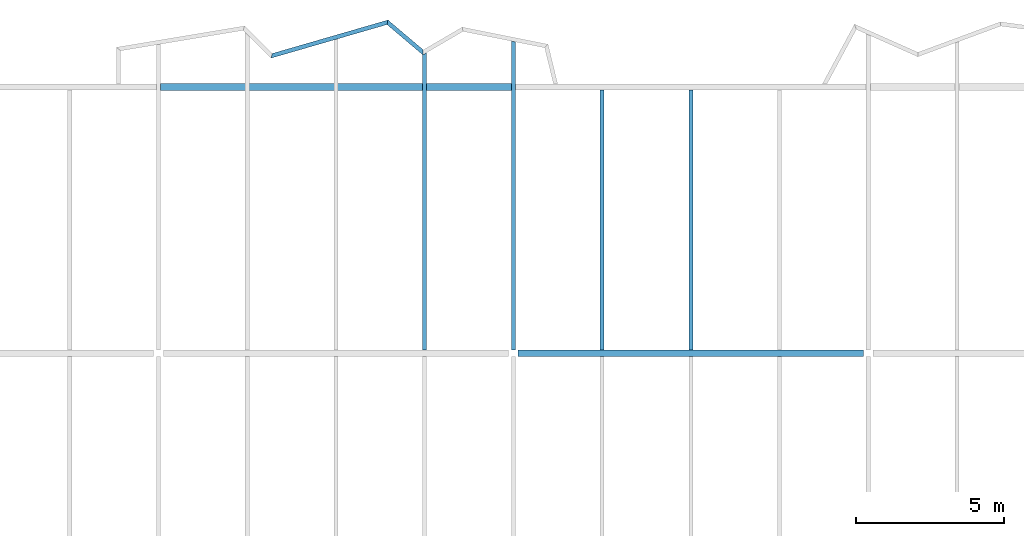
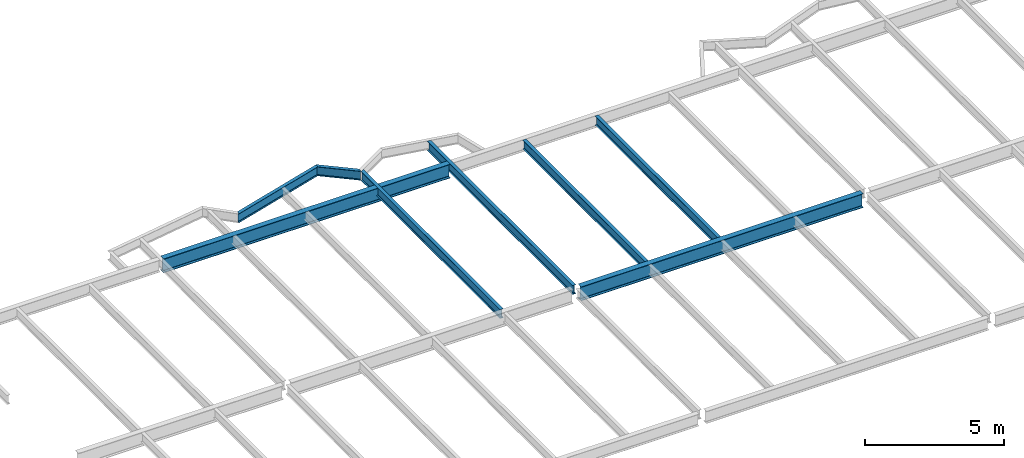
# One storey, part 4 of 21: 8 beams.
"""IFC2X3 building model written with IfcOpenShell, lengths in millimetres."""

from ifc_helpers import new_model, si_unit, origin, place, context, project, spatial, faceted_brep, material, element, save


model = new_model("IFC2X3")

# Units and contexts
context_of_model = context(None, 3, precision=1e-05, world=origin())
ifc_project = project(units=[si_unit("LENGTHUNIT", "METRE", prefix="MILLI")], contexts=[context_of_model])

# Building, storey
building = spatial("IfcBuilding", under=ifc_project, Name="Building", CompositionType="ELEMENT")
storey = spatial("IfcBuildingStorey", under=building, Name="FL3-FRM", CompositionType="ELEMENT")

# Beams
ifc_material_1 = material(Name="A992")
beam_1_placement = place(None, origin())
element("IfcBeam", 1, at=beam_1_placement, inside=storey, material=ifc_material_1, Name="Column453", context=context_of_model, shape_type="Brep", body=[
    faceted_brep([(-47930.0, 35885.5, 8261.0), (-47930.0, 36114.5, 8261.0), (-36070.0, 36114.5, 8261.0), (-36070.0, 35885.5, 8261.0), (-47930.0, 36114.5, 8280.6), (-36070.0, 36114.5, 8280.6), (-47930.0, 36018.6, 8280.6), (-36070.0, 36018.6, 8280.6), (-47930.0, 36015.4, 8281.03), (-36070.0, 36015.4, 8281.03), (-47930.0, 36012.3, 8282.3), (-36070.0, 36012.3, 8282.3), (-47930.0, 36009.7, 8284.32), (-36070.0, 36009.7, 8284.32), (-47930.0, 36007.7, 8286.95), (-36070.0, 36007.7, 8286.95), (-47930.0, 36006.4, 8290.01), (-36070.0, 36006.4, 8290.01), (-47930.0, 36005.9, 8293.3), (-36070.0, 36005.9, 8293.3), (-47930.0, 36005.9, 8840.7), (-36070.0, 36005.9, 8840.7), (-47930.0, 36006.4, 8843.99), (-36070.0, 36006.4, 8843.99), (-47930.0, 36007.7, 8847.05), (-36070.0, 36007.7, 8847.05), (-47930.0, 36009.7, 8849.68), (-36070.0, 36009.7, 8849.68), (-47930.0, 36012.3, 8851.7), (-36070.0, 36012.3, 8851.7), (-47930.0, 36015.4, 8852.97), (-36070.0, 36015.4, 8852.97), (-47930.0, 36018.6, 8853.4), (-36070.0, 36018.6, 8853.4), (-47930.0, 36114.5, 8853.4), (-36070.0, 36114.5, 8853.4), (-47930.0, 36114.5, 8873.0), (-36070.0, 36114.5, 8873.0), (-47930.0, 35885.5, 8873.0), (-36070.0, 35885.5, 8873.0), (-47930.0, 35885.5, 8853.4), (-36070.0, 35885.5, 8853.4), (-47930.0, 35981.4, 8853.4), (-36070.0, 35981.4, 8853.4), (-47930.0, 35984.6, 8852.97), (-36070.0, 35984.6, 8852.97), (-47930.0, 35987.7, 8851.7), (-36070.0, 35987.7, 8851.7), (-47930.0, 35990.3, 8849.68), (-36070.0, 35990.3, 8849.68), (-47930.0, 35992.3, 8847.05), (-36070.0, 35992.3, 8847.05), (-47930.0, 35993.6, 8843.99), (-36070.0, 35993.6, 8843.99), (-47930.0, 35994.1, 8840.7), (-36070.0, 35994.1, 8840.7), (-47930.0, 35994.1, 8293.3), (-36070.0, 35994.1, 8293.3), (-47930.0, 35993.6, 8290.01), (-36070.0, 35993.6, 8290.01), (-47930.0, 35992.3, 8286.95), (-36070.0, 35992.3, 8286.95), (-47930.0, 35990.3, 8284.32), (-36070.0, 35990.3, 8284.32), (-47930.0, 35987.7, 8282.3), (-36070.0, 35987.7, 8282.3), (-47930.0, 35984.6, 8281.03), (-36070.0, 35984.6, 8281.03), (-47930.0, 35981.4, 8280.6), (-36070.0, 35981.4, 8280.6), (-47930.0, 35885.5, 8280.6), (-36070.0, 35885.5, 8280.6)], [[[0, 1, 2, 3]], [[1, 4, 5, 2]], [[4, 6, 7, 5]], [[6, 8, 9, 7]], [[8, 10, 11, 9]], [[10, 12, 13, 11]], [[12, 14, 15, 13]], [[14, 16, 17, 15]], [[16, 18, 19, 17]], [[18, 20, 21, 19]], [[20, 22, 23, 21]], [[22, 24, 25, 23]], [[24, 26, 27, 25]], [[26, 28, 29, 27]], [[28, 30, 31, 29]], [[30, 32, 33, 31]], [[32, 34, 35, 33]], [[34, 36, 37, 35]], [[36, 38, 39, 37]], [[38, 40, 41, 39]], [[40, 42, 43, 41]], [[42, 44, 45, 43]], [[44, 46, 47, 45]], [[46, 48, 49, 47]], [[48, 50, 51, 49]], [[50, 52, 53, 51]], [[52, 54, 55, 53]], [[54, 56, 57, 55]], [[56, 58, 59, 57]], [[58, 60, 61, 59]], [[60, 62, 63, 61]], [[62, 64, 65, 63]], [[64, 66, 67, 65]], [[66, 68, 69, 67]], [[68, 70, 71, 69]], [[70, 0, 3, 71]], [[0, 70, 68, 66, 64, 62, 60, 58, 56, 54, 52, 50, 48, 46, 44, 42, 40, 38, 36, 34, 32, 30, 28, 26, 24, 22, 20, 18, 16, 14, 12, 10, 8, 6, 4, 1]], [[3, 2, 5, 7, 9, 11, 13, 15, 17, 19, 21, 23, 25, 27, 29, 31, 33, 35, 37, 39, 41, 43, 45, 47, 49, 51, 53, 55, 57, 59, 61, 63, 65, 67, 69, 71]]]),
])
ifc_material_2 = material(Name="A992")
beam_2_placement = place(None, origin())
element("IfcBeam", 2, at=beam_2_placement, inside=storey, material=ifc_material_2, Name="Column456", context=context_of_model, shape_type="Brep", body=[
    faceted_brep([(-35836.5, 26885.5, 8261.0), (-35836.5, 27114.5, 8261.0), (-24163.5, 27114.5, 8261.0), (-24163.5, 26885.5, 8261.0), (-35836.5, 27114.5, 8280.6), (-24163.5, 27114.5, 8280.6), (-35836.5, 27018.6, 8280.6), (-24163.5, 27018.6, 8280.6), (-35836.5, 27015.4, 8281.03), (-24163.5, 27015.4, 8281.03), (-35836.5, 27012.3, 8282.3), (-24163.5, 27012.3, 8282.3), (-35836.5, 27009.7, 8284.32), (-24163.5, 27009.7, 8284.32), (-35836.5, 27007.7, 8286.95), (-24163.5, 27007.7, 8286.95), (-35836.5, 27006.4, 8290.01), (-24163.5, 27006.4, 8290.01), (-35836.5, 27005.9, 8293.3), (-24163.5, 27005.9, 8293.3), (-35836.5, 27005.9, 8840.7), (-24163.5, 27005.9, 8840.7), (-35836.5, 27006.4, 8843.99), (-24163.5, 27006.4, 8843.99), (-35836.5, 27007.7, 8847.05), (-24163.5, 27007.7, 8847.05), (-35836.5, 27009.7, 8849.68), (-24163.5, 27009.7, 8849.68), (-35836.5, 27012.3, 8851.7), (-24163.5, 27012.3, 8851.7), (-35836.5, 27015.4, 8852.97), (-24163.5, 27015.4, 8852.97), (-35836.5, 27018.6, 8853.4), (-24163.5, 27018.6, 8853.4), (-35836.5, 27114.5, 8853.4), (-24163.5, 27114.5, 8853.4), (-35836.5, 27114.5, 8873.0), (-24163.5, 27114.5, 8873.0), (-35836.5, 26885.5, 8873.0), (-24163.5, 26885.5, 8873.0), (-35836.5, 26885.5, 8853.4), (-24163.5, 26885.5, 8853.4), (-35836.5, 26981.4, 8853.4), (-24163.5, 26981.4, 8853.4), (-35836.5, 26984.6, 8852.97), (-24163.5, 26984.6, 8852.97), (-35836.5, 26987.7, 8851.7), (-24163.5, 26987.7, 8851.7), (-35836.5, 26990.3, 8849.68), (-24163.5, 26990.3, 8849.68), (-35836.5, 26992.3, 8847.05), (-24163.5, 26992.3, 8847.05), (-35836.5, 26993.6, 8843.99), (-24163.5, 26993.6, 8843.99), (-35836.5, 26994.1, 8840.7), (-24163.5, 26994.1, 8840.7), (-35836.5, 26994.1, 8293.3), (-24163.5, 26994.1, 8293.3), (-35836.5, 26993.6, 8290.01), (-24163.5, 26993.6, 8290.01), (-35836.5, 26992.3, 8286.95), (-24163.5, 26992.3, 8286.95), (-35836.5, 26990.3, 8284.32), (-24163.5, 26990.3, 8284.32), (-35836.5, 26987.7, 8282.3), (-24163.5, 26987.7, 8282.3), (-35836.5, 26984.6, 8281.03), (-24163.5, 26984.6, 8281.03), (-35836.5, 26981.4, 8280.6), (-24163.5, 26981.4, 8280.6), (-35836.5, 26885.5, 8280.6), (-24163.5, 26885.5, 8280.6)], [[[0, 1, 2, 3]], [[1, 4, 5, 2]], [[4, 6, 7, 5]], [[6, 8, 9, 7]], [[8, 10, 11, 9]], [[10, 12, 13, 11]], [[12, 14, 15, 13]], [[14, 16, 17, 15]], [[16, 18, 19, 17]], [[18, 20, 21, 19]], [[20, 22, 23, 21]], [[22, 24, 25, 23]], [[24, 26, 27, 25]], [[26, 28, 29, 27]], [[28, 30, 31, 29]], [[30, 32, 33, 31]], [[32, 34, 35, 33]], [[34, 36, 37, 35]], [[36, 38, 39, 37]], [[38, 40, 41, 39]], [[40, 42, 43, 41]], [[42, 44, 45, 43]], [[44, 46, 47, 45]], [[46, 48, 49, 47]], [[48, 50, 51, 49]], [[50, 52, 53, 51]], [[52, 54, 55, 53]], [[54, 56, 57, 55]], [[56, 58, 59, 57]], [[58, 60, 61, 59]], [[60, 62, 63, 61]], [[62, 64, 65, 63]], [[64, 66, 67, 65]], [[66, 68, 69, 67]], [[68, 70, 71, 69]], [[70, 0, 3, 71]], [[0, 70, 68, 66, 64, 62, 60, 58, 56, 54, 52, 50, 48, 46, 44, 42, 40, 38, 36, 34, 32, 30, 28, 26, 24, 22, 20, 18, 16, 14, 12, 10, 8, 6, 4, 1]], [[3, 2, 5, 7, 9, 11, 13, 15, 17, 19, 21, 23, 25, 27, 29, 31, 33, 35, 37, 39, 41, 43, 45, 47, 49, 51, 53, 55, 57, 59, 61, 63, 65, 67, 69, 71]]]),
])
ifc_material_3 = material(Name="A992")
beam_3_placement = place(None, origin())
element("IfcBeam", 3, at=beam_3_placement, inside=storey, material=ifc_material_3, Name="B405", context=context_of_model, shape_type="Brep", body=[
    faceted_brep([(-33070.0, 35895.5, 8474.0), (-32930.0, 35895.5, 8474.0), (-32930.0, 27114.5, 8474.0), (-33070.0, 27114.5, 8474.0), (-32930.0, 35895.5, 8482.8), (-32930.0, 27114.5, 8482.8), (-32986.6, 35895.5, 8482.8), (-32986.6, 27114.5, 8482.8), (-32989.2, 35895.5, 8483.15), (-32989.2, 27114.5, 8483.15), (-32991.7, 35895.5, 8484.17), (-32991.7, 27114.5, 8484.17), (-32993.8, 35895.5, 8485.79), (-32993.8, 27114.5, 8485.79), (-32995.4, 35895.5, 8487.9), (-32995.4, 27114.5, 8487.9), (-32996.5, 35895.5, 8490.36), (-32996.5, 27114.5, 8490.36), (-32996.8, 35895.5, 8493.0), (-32996.8, 27114.5, 8493.0), (-32996.8, 35895.5, 8854.0), (-32996.8, 27114.5, 8854.0), (-32996.5, 35895.5, 8856.64), (-32996.5, 27114.5, 8856.64), (-32995.4, 35895.5, 8859.1), (-32995.4, 27114.5, 8859.1), (-32993.8, 35895.5, 8861.21), (-32993.8, 27114.5, 8861.21), (-32991.7, 35895.5, 8862.83), (-32991.7, 27114.5, 8862.83), (-32989.2, 35895.5, 8863.85), (-32989.2, 27114.5, 8863.85), (-32986.6, 35895.5, 8864.2), (-32986.6, 27114.5, 8864.2), (-32930.0, 35895.5, 8864.2), (-32930.0, 27114.5, 8864.2), (-32930.0, 35895.5, 8873.0), (-32930.0, 27114.5, 8873.0), (-33070.0, 35895.5, 8873.0), (-33070.0, 27114.5, 8873.0), (-33070.0, 35895.5, 8864.2), (-33070.0, 27114.5, 8864.2), (-33013.4, 35895.5, 8864.2), (-33013.4, 27114.5, 8864.2), (-33010.8, 35895.5, 8863.85), (-33010.8, 27114.5, 8863.85), (-33008.3, 35895.5, 8862.83), (-33008.3, 27114.5, 8862.83), (-33006.2, 35895.5, 8861.21), (-33006.2, 27114.5, 8861.21), (-33004.6, 35895.5, 8859.1), (-33004.6, 27114.5, 8859.1), (-33003.5, 35895.5, 8856.64), (-33003.5, 27114.5, 8856.64), (-33003.2, 35895.5, 8854.0), (-33003.2, 27114.5, 8854.0), (-33003.2, 35895.5, 8493.0), (-33003.2, 27114.5, 8493.0), (-33003.5, 35895.5, 8490.36), (-33003.5, 27114.5, 8490.36), (-33004.6, 35895.5, 8487.9), (-33004.6, 27114.5, 8487.9), (-33006.2, 35895.5, 8485.79), (-33006.2, 27114.5, 8485.79), (-33008.3, 35895.5, 8484.17), (-33008.3, 27114.5, 8484.17), (-33010.8, 35895.5, 8483.15), (-33010.8, 27114.5, 8483.15), (-33013.4, 35895.5, 8482.8), (-33013.4, 27114.5, 8482.8), (-33070.0, 35895.5, 8482.8), (-33070.0, 27114.5, 8482.8)], [[[0, 1, 2, 3]], [[1, 4, 5, 2]], [[4, 6, 7, 5]], [[6, 8, 9, 7]], [[8, 10, 11, 9]], [[10, 12, 13, 11]], [[12, 14, 15, 13]], [[14, 16, 17, 15]], [[16, 18, 19, 17]], [[18, 20, 21, 19]], [[20, 22, 23, 21]], [[22, 24, 25, 23]], [[24, 26, 27, 25]], [[26, 28, 29, 27]], [[28, 30, 31, 29]], [[30, 32, 33, 31]], [[32, 34, 35, 33]], [[34, 36, 37, 35]], [[36, 38, 39, 37]], [[38, 40, 41, 39]], [[40, 42, 43, 41]], [[42, 44, 45, 43]], [[44, 46, 47, 45]], [[46, 48, 49, 47]], [[48, 50, 51, 49]], [[50, 52, 53, 51]], [[52, 54, 55, 53]], [[54, 56, 57, 55]], [[56, 58, 59, 57]], [[58, 60, 61, 59]], [[60, 62, 63, 61]], [[62, 64, 65, 63]], [[64, 66, 67, 65]], [[66, 68, 69, 67]], [[68, 70, 71, 69]], [[70, 0, 3, 71]], [[0, 70, 68, 66, 64, 62, 60, 58, 56, 54, 52, 50, 48, 46, 44, 42, 40, 38, 36, 34, 32, 30, 28, 26, 24, 22, 20, 18, 16, 14, 12, 10, 8, 6, 4, 1]], [[3, 2, 5, 7, 9, 11, 13, 15, 17, 19, 21, 23, 25, 27, 29, 31, 33, 35, 37, 39, 41, 43, 45, 47, 49, 51, 53, 55, 57, 59, 61, 63, 65, 67, 69, 71]]]),
])
ifc_material_4 = material(Name="A992")
beam_4_placement = place(None, origin())
element("IfcBeam", 4, at=beam_4_placement, inside=storey, material=ifc_material_4, Name="B406", context=context_of_model, shape_type="Brep", body=[
    faceted_brep([(-30070.0, 35895.5, 8474.0), (-29930.0, 35895.5, 8474.0), (-29930.0, 27114.5, 8474.0), (-30070.0, 27114.5, 8474.0), (-29930.0, 35895.5, 8482.8), (-29930.0, 27114.5, 8482.8), (-29986.6, 35895.5, 8482.8), (-29986.6, 27114.5, 8482.8), (-29989.2, 35895.5, 8483.15), (-29989.2, 27114.5, 8483.15), (-29991.7, 35895.5, 8484.17), (-29991.7, 27114.5, 8484.17), (-29993.8, 35895.5, 8485.79), (-29993.8, 27114.5, 8485.79), (-29995.4, 35895.5, 8487.9), (-29995.4, 27114.5, 8487.9), (-29996.5, 35895.5, 8490.36), (-29996.5, 27114.5, 8490.36), (-29996.8, 35895.5, 8493.0), (-29996.8, 27114.5, 8493.0), (-29996.8, 35895.5, 8854.0), (-29996.8, 27114.5, 8854.0), (-29996.5, 35895.5, 8856.64), (-29996.5, 27114.5, 8856.64), (-29995.4, 35895.5, 8859.1), (-29995.4, 27114.5, 8859.1), (-29993.8, 35895.5, 8861.21), (-29993.8, 27114.5, 8861.21), (-29991.7, 35895.5, 8862.83), (-29991.7, 27114.5, 8862.83), (-29989.2, 35895.5, 8863.85), (-29989.2, 27114.5, 8863.85), (-29986.6, 35895.5, 8864.2), (-29986.6, 27114.5, 8864.2), (-29930.0, 35895.5, 8864.2), (-29930.0, 27114.5, 8864.2), (-29930.0, 35895.5, 8873.0), (-29930.0, 27114.5, 8873.0), (-30070.0, 35895.5, 8873.0), (-30070.0, 27114.5, 8873.0), (-30070.0, 35895.5, 8864.2), (-30070.0, 27114.5, 8864.2), (-30013.4, 35895.5, 8864.2), (-30013.4, 27114.5, 8864.2), (-30010.8, 35895.5, 8863.85), (-30010.8, 27114.5, 8863.85), (-30008.3, 35895.5, 8862.83), (-30008.3, 27114.5, 8862.83), (-30006.2, 35895.5, 8861.21), (-30006.2, 27114.5, 8861.21), (-30004.6, 35895.5, 8859.1), (-30004.6, 27114.5, 8859.1), (-30003.5, 35895.5, 8856.64), (-30003.5, 27114.5, 8856.64), (-30003.2, 35895.5, 8854.0), (-30003.2, 27114.5, 8854.0), (-30003.2, 35895.5, 8493.0), (-30003.2, 27114.5, 8493.0), (-30003.5, 35895.5, 8490.36), (-30003.5, 27114.5, 8490.36), (-30004.6, 35895.5, 8487.9), (-30004.6, 27114.5, 8487.9), (-30006.2, 35895.5, 8485.79), (-30006.2, 27114.5, 8485.79), (-30008.3, 35895.5, 8484.17), (-30008.3, 27114.5, 8484.17), (-30010.8, 35895.5, 8483.15), (-30010.8, 27114.5, 8483.15), (-30013.4, 35895.5, 8482.8), (-30013.4, 27114.5, 8482.8), (-30070.0, 35895.5, 8482.8), (-30070.0, 27114.5, 8482.8)], [[[0, 1, 2, 3]], [[1, 4, 5, 2]], [[4, 6, 7, 5]], [[6, 8, 9, 7]], [[8, 10, 11, 9]], [[10, 12, 13, 11]], [[12, 14, 15, 13]], [[14, 16, 17, 15]], [[16, 18, 19, 17]], [[18, 20, 21, 19]], [[20, 22, 23, 21]], [[22, 24, 25, 23]], [[24, 26, 27, 25]], [[26, 28, 29, 27]], [[28, 30, 31, 29]], [[30, 32, 33, 31]], [[32, 34, 35, 33]], [[34, 36, 37, 35]], [[36, 38, 39, 37]], [[38, 40, 41, 39]], [[40, 42, 43, 41]], [[42, 44, 45, 43]], [[44, 46, 47, 45]], [[46, 48, 49, 47]], [[48, 50, 51, 49]], [[50, 52, 53, 51]], [[52, 54, 55, 53]], [[54, 56, 57, 55]], [[56, 58, 59, 57]], [[58, 60, 61, 59]], [[60, 62, 63, 61]], [[62, 64, 65, 63]], [[64, 66, 67, 65]], [[66, 68, 69, 67]], [[68, 70, 71, 69]], [[70, 0, 3, 71]], [[0, 70, 68, 66, 64, 62, 60, 58, 56, 54, 52, 50, 48, 46, 44, 42, 40, 38, 36, 34, 32, 30, 28, 26, 24, 22, 20, 18, 16, 14, 12, 10, 8, 6, 4, 1]], [[3, 2, 5, 7, 9, 11, 13, 15, 17, 19, 21, 23, 25, 27, 29, 31, 33, 35, 37, 39, 41, 43, 45, 47, 49, 51, 53, 55, 57, 59, 61, 63, 65, 67, 69, 71]]]),
])
ifc_material_5 = material(Name="A992")
beam_5_placement = place(None, origin())
element("IfcBeam", 5, at=beam_5_placement, inside=storey, material=ifc_material_5, Name="B1080", context=context_of_model, shape_type="Brep", body=[
    faceted_brep([(-36070.0, 37552.7, 8474.0), (-35930.0, 37524.7, 8474.0), (-35930.0, 27114.5, 8474.0), (-36070.0, 27114.5, 8474.0), (-35930.0, 37524.7, 8482.8), (-35930.0, 27114.5, 8482.8), (-35986.6, 37536.0, 8482.8), (-35986.6, 27114.5, 8482.8), (-35988.1, 37536.3, 8482.9), (-35988.1, 27114.5, 8482.9), (-35989.5, 37536.6, 8483.21), (-35989.5, 27114.5, 8483.21), (-35990.8, 37536.9, 8483.72), (-35990.8, 27114.5, 8483.72), (-35992.1, 37537.1, 8484.42), (-35992.1, 27114.5, 8484.42), (-35993.3, 37537.4, 8485.29), (-35993.3, 27114.5, 8485.29), (-35994.3, 37537.6, 8486.32), (-35994.3, 27114.5, 8486.32), (-35995.2, 37537.7, 8487.48), (-35995.2, 27114.5, 8487.49), (-35995.9, 37537.9, 8488.76), (-35995.9, 27114.5, 8488.76), (-35996.4, 37538.0, 8490.13), (-35996.4, 27114.5, 8490.13), (-35996.7, 37538.1, 8491.55), (-35996.7, 27114.5, 8491.55), (-35996.8, 37538.1, 8493.0), (-35996.8, 27114.5, 8493.0), (-35996.8, 37538.1, 8854.0), (-35996.8, 27114.5, 8854.0), (-35996.7, 37538.1, 8855.45), (-35996.7, 27114.5, 8855.45), (-35996.4, 37538.0, 8856.87), (-35996.4, 27114.5, 8856.87), (-35995.9, 37537.9, 8858.24), (-35995.9, 27114.5, 8858.24), (-35995.2, 37537.7, 8859.52), (-35995.2, 27114.5, 8859.51), (-35994.3, 37537.6, 8860.68), (-35994.3, 27114.5, 8860.68), (-35993.3, 37537.4, 8861.71), (-35993.3, 27114.5, 8861.71), (-35992.1, 37537.1, 8862.58), (-35992.1, 27114.5, 8862.58), (-35990.8, 37536.9, 8863.28), (-35990.8, 27114.5, 8863.28), (-35989.5, 37536.6, 8863.79), (-35989.5, 27114.5, 8863.79), (-35988.1, 37536.3, 8864.1), (-35988.1, 27114.5, 8864.1), (-35986.6, 37536.0, 8864.2), (-35986.6, 27114.5, 8864.2), (-35930.0, 37524.7, 8864.2), (-35930.0, 27114.5, 8864.2), (-35930.0, 37524.7, 8873.0), (-35930.0, 27114.5, 8873.0), (-36070.0, 37552.7, 8873.0), (-36070.0, 27114.5, 8873.0), (-36070.0, 37552.7, 8864.2), (-36070.0, 27114.5, 8864.2), (-36013.4, 37541.4, 8864.2), (-36013.4, 27114.5, 8864.2), (-36011.9, 37541.1, 8864.1), (-36011.9, 27114.5, 8864.1), (-36010.5, 37540.8, 8863.79), (-36010.5, 27114.5, 8863.79), (-36009.2, 37540.5, 8863.28), (-36009.2, 27114.5, 8863.28), (-36007.9, 37540.3, 8862.58), (-36007.9, 27114.5, 8862.58), (-36006.7, 37540.1, 8861.71), (-36006.7, 27114.5, 8861.71), (-36005.7, 37539.9, 8860.68), (-36005.7, 27114.5, 8860.68), (-36004.8, 37539.7, 8859.52), (-36004.8, 27114.5, 8859.51), (-36004.1, 37539.5, 8858.24), (-36004.1, 27114.5, 8858.24), (-36003.6, 37539.4, 8856.87), (-36003.6, 27114.5, 8856.87), (-36003.3, 37539.4, 8855.45), (-36003.3, 27114.5, 8855.45), (-36003.2, 37539.4, 8854.0), (-36003.2, 27114.5, 8854.0), (-36003.2, 37539.4, 8493.0), (-36003.2, 27114.5, 8493.0), (-36003.3, 37539.4, 8491.55), (-36003.3, 27114.5, 8491.55), (-36003.6, 37539.4, 8490.13), (-36003.6, 27114.5, 8490.13), (-36004.1, 37539.5, 8488.76), (-36004.1, 27114.5, 8488.76), (-36004.8, 37539.7, 8487.48), (-36004.8, 27114.5, 8487.49), (-36005.7, 37539.9, 8486.32), (-36005.7, 27114.5, 8486.32), (-36006.7, 37540.1, 8485.29), (-36006.7, 27114.5, 8485.29), (-36007.9, 37540.3, 8484.42), (-36007.9, 27114.5, 8484.42), (-36009.2, 37540.5, 8483.72), (-36009.2, 27114.5, 8483.72), (-36010.5, 37540.8, 8483.21), (-36010.5, 27114.5, 8483.21), (-36011.9, 37541.1, 8482.9), (-36011.9, 27114.5, 8482.9), (-36013.4, 37541.4, 8482.8), (-36013.4, 27114.5, 8482.8), (-36070.0, 37552.7, 8482.8), (-36070.0, 27114.5, 8482.8)], [[[0, 1, 2, 3]], [[1, 4, 5, 2]], [[4, 6, 7, 5]], [[6, 8, 9, 7]], [[8, 10, 11, 9]], [[10, 12, 13, 11]], [[12, 14, 15, 13]], [[14, 16, 17, 15]], [[16, 18, 19, 17]], [[18, 20, 21, 19]], [[20, 22, 23, 21]], [[22, 24, 25, 23]], [[24, 26, 27, 25]], [[26, 28, 29, 27]], [[28, 30, 31, 29]], [[30, 32, 33, 31]], [[32, 34, 35, 33]], [[34, 36, 37, 35]], [[36, 38, 39, 37]], [[38, 40, 41, 39]], [[40, 42, 43, 41]], [[42, 44, 45, 43]], [[44, 46, 47, 45]], [[46, 48, 49, 47]], [[48, 50, 51, 49]], [[50, 52, 53, 51]], [[52, 54, 55, 53]], [[54, 56, 57, 55]], [[56, 58, 59, 57]], [[58, 60, 61, 59]], [[60, 62, 63, 61]], [[62, 64, 65, 63]], [[64, 66, 67, 65]], [[66, 68, 69, 67]], [[68, 70, 71, 69]], [[70, 72, 73, 71]], [[72, 74, 75, 73]], [[74, 76, 77, 75]], [[76, 78, 79, 77]], [[78, 80, 81, 79]], [[80, 82, 83, 81]], [[82, 84, 85, 83]], [[84, 86, 87, 85]], [[86, 88, 89, 87]], [[88, 90, 91, 89]], [[90, 92, 93, 91]], [[92, 94, 95, 93]], [[94, 96, 97, 95]], [[96, 98, 99, 97]], [[98, 100, 101, 99]], [[100, 102, 103, 101]], [[102, 104, 105, 103]], [[104, 106, 107, 105]], [[106, 108, 109, 107]], [[108, 110, 111, 109]], [[110, 0, 3, 111]], [[0, 110, 108, 106, 104, 102, 100, 98, 96, 94, 92, 90, 88, 86, 84, 82, 80, 78, 76, 74, 72, 70, 68, 66, 64, 62, 60, 58, 56, 54, 52, 50, 48, 46, 44, 42, 40, 38, 36, 34, 32, 30, 28, 26, 24, 22, 20, 18, 16, 14, 12, 10, 8, 6, 4, 1]], [[3, 2, 5, 7, 9, 11, 13, 15, 17, 19, 21, 23, 25, 27, 29, 31, 33, 35, 37, 39, 41, 43, 45, 47, 49, 51, 53, 55, 57, 59, 61, 63, 65, 67, 69, 71, 73, 75, 77, 79, 81, 83, 85, 87, 89, 91, 93, 95, 97, 99, 101, 103, 105, 107, 109, 111]]]),
])
ifc_material_6 = material(Name="A992")
beam_6_placement = place(None, origin())
element("IfcBeam", 6, at=beam_6_placement, inside=storey, material=ifc_material_6, Name="B1082", context=context_of_model, shape_type="Brep", body=[
    faceted_brep([(-40274.2, 38112.0, 8474.0), (-40241.1, 38267.3, 8474.0), (-39047.8, 37257.6, 8474.0), (-39062.7, 37086.8, 8474.0), (-40241.1, 38267.3, 8482.8), (-39047.8, 37257.6, 8482.8), (-40254.5, 38204.5, 8482.8), (-39053.9, 37188.6, 8482.8), (-40254.9, 38202.7, 8482.92), (-39054.0, 37186.6, 8482.91), (-40255.2, 38201.0, 8483.29), (-39054.2, 37184.7, 8483.29), (-40255.6, 38199.4, 8483.91), (-39054.3, 37183.0, 8483.91), (-40255.9, 38197.9, 8484.73), (-39054.5, 37181.3, 8484.72), (-40256.2, 38196.5, 8485.79), (-39054.6, 37179.8, 8485.79), (-40256.4, 38195.4, 8486.99), (-39054.7, 37178.5, 8486.98), (-40256.6, 38194.4, 8488.36), (-39054.8, 37177.5, 8488.35), (-40256.8, 38193.7, 8489.84), (-39054.9, 37176.8, 8489.84), (-40256.9, 38193.3, 8491.4), (-39054.9, 37176.3, 8491.39), (-40256.9, 38193.2, 8493.0), (-39054.9, 37176.1, 8493.0), (-40256.9, 38193.2, 8854.0), (-39054.9, 37176.1, 8854.0), (-40256.9, 38193.3, 8855.6), (-39054.9, 37176.3, 8855.61), (-40256.8, 38193.7, 8857.16), (-39054.9, 37176.8, 8857.16), (-40256.6, 38194.4, 8858.64), (-39054.8, 37177.5, 8858.65), (-40256.4, 38195.4, 8860.01), (-39054.7, 37178.5, 8860.02), (-40256.2, 38196.5, 8861.21), (-39054.6, 37179.8, 8861.21), (-40255.9, 38197.9, 8862.27), (-39054.5, 37181.3, 8862.28), (-40255.6, 38199.4, 8863.09), (-39054.3, 37183.0, 8863.09), (-40255.2, 38201.0, 8863.71), (-39054.2, 37184.7, 8863.71), (-40254.9, 38202.7, 8864.08), (-39054.0, 37186.6, 8864.09), (-40254.5, 38204.5, 8864.2), (-39053.9, 37188.6, 8864.2), (-40241.1, 38267.3, 8864.2), (-39047.8, 37257.6, 8864.2), (-40241.1, 38267.3, 8873.0), (-39047.8, 37257.6, 8873.0), (-40274.2, 38112.0, 8873.0), (-39062.7, 37086.8, 8873.0), (-40274.2, 38112.0, 8864.2), (-39062.7, 37086.8, 8864.2), (-40260.8, 38174.8, 8864.2), (-39056.7, 37155.9, 8864.2), (-40260.5, 38176.5, 8864.08), (-39056.5, 37157.8, 8864.09), (-40260.1, 38178.3, 8863.71), (-39056.4, 37159.7, 8863.71), (-40259.7, 38179.9, 8863.09), (-39056.2, 37161.5, 8863.09), (-40259.4, 38181.4, 8862.27), (-39056.1, 37163.2, 8862.28), (-40259.1, 38182.8, 8861.21), (-39055.9, 37164.7, 8861.21), (-40258.9, 38183.9, 8860.01), (-39055.8, 37165.9, 8860.02), (-40258.7, 38184.8, 8858.64), (-39055.7, 37167.0, 8858.65), (-40258.5, 38185.5, 8857.16), (-39055.7, 37167.7, 8857.16), (-40258.5, 38185.9, 8855.6), (-39055.6, 37168.2, 8855.61), (-40258.4, 38186.1, 8854.0), (-39055.6, 37168.3, 8854.0), (-40258.4, 38186.1, 8493.0), (-39055.6, 37168.3, 8493.0), (-40258.5, 38185.9, 8491.4), (-39055.6, 37168.2, 8491.39), (-40258.5, 38185.5, 8489.84), (-39055.7, 37167.7, 8489.84), (-40258.7, 38184.8, 8488.36), (-39055.7, 37167.0, 8488.35), (-40258.9, 38183.9, 8486.99), (-39055.8, 37165.9, 8486.98), (-40259.1, 38182.8, 8485.79), (-39055.9, 37164.7, 8485.79), (-40259.4, 38181.4, 8484.73), (-39056.1, 37163.2, 8484.72), (-40259.7, 38179.9, 8483.91), (-39056.2, 37161.5, 8483.91), (-40260.1, 38178.3, 8483.29), (-39056.4, 37159.7, 8483.29), (-40260.5, 38176.5, 8482.92), (-39056.5, 37157.8, 8482.91), (-40260.8, 38174.8, 8482.8), (-39056.7, 37155.9, 8482.8), (-40274.2, 38112.0, 8482.8), (-39062.7, 37086.8, 8482.8)], [[[0, 1, 2, 3]], [[1, 4, 5, 2]], [[4, 6, 7, 5]], [[6, 8, 9, 7]], [[8, 10, 11, 9]], [[10, 12, 13, 11]], [[12, 14, 15, 13]], [[14, 16, 17, 15]], [[16, 18, 19, 17]], [[18, 20, 21, 19]], [[20, 22, 23, 21]], [[22, 24, 25, 23]], [[24, 26, 27, 25]], [[26, 28, 29, 27]], [[28, 30, 31, 29]], [[30, 32, 33, 31]], [[32, 34, 35, 33]], [[34, 36, 37, 35]], [[36, 38, 39, 37]], [[38, 40, 41, 39]], [[40, 42, 43, 41]], [[42, 44, 45, 43]], [[44, 46, 47, 45]], [[46, 48, 49, 47]], [[48, 50, 51, 49]], [[50, 52, 53, 51]], [[52, 54, 55, 53]], [[54, 56, 57, 55]], [[56, 58, 59, 57]], [[58, 60, 61, 59]], [[60, 62, 63, 61]], [[62, 64, 65, 63]], [[64, 66, 67, 65]], [[66, 68, 69, 67]], [[68, 70, 71, 69]], [[70, 72, 73, 71]], [[72, 74, 75, 73]], [[74, 76, 77, 75]], [[76, 78, 79, 77]], [[78, 80, 81, 79]], [[80, 82, 83, 81]], [[82, 84, 85, 83]], [[84, 86, 87, 85]], [[86, 88, 89, 87]], [[88, 90, 91, 89]], [[90, 92, 93, 91]], [[92, 94, 95, 93]], [[94, 96, 97, 95]], [[96, 98, 99, 97]], [[98, 100, 101, 99]], [[100, 102, 103, 101]], [[102, 0, 3, 103]], [[0, 102, 100, 98, 96, 94, 92, 90, 88, 86, 84, 82, 80, 78, 76, 74, 72, 70, 68, 66, 64, 62, 60, 58, 56, 54, 52, 50, 48, 46, 44, 42, 40, 38, 36, 34, 32, 30, 28, 26, 24, 22, 20, 18, 16, 14, 12, 10, 8, 6, 4, 1]], [[3, 2, 5, 7, 9, 11, 13, 15, 17, 19, 21, 23, 25, 27, 29, 31, 33, 35, 37, 39, 41, 43, 45, 47, 49, 51, 53, 55, 57, 59, 61, 63, 65, 67, 69, 71, 73, 75, 77, 79, 81, 83, 85, 87, 89, 91, 93, 95, 97, 99, 101, 103]]]),
])
ifc_material_7 = material(Name="A992")
beam_7_placement = place(None, origin())
element("IfcBeam", 7, at=beam_7_placement, inside=storey, material=ifc_material_7, Name="B1083", context=context_of_model, shape_type="Brep", body=[
    faceted_brep([(-39070.0, 37082.6, 8474.0), (-38930.0, 37164.3, 8474.0), (-38930.0, 27114.5, 8474.0), (-39070.0, 27114.5, 8474.0), (-38930.0, 37164.3, 8482.8), (-38930.0, 27114.5, 8482.8), (-38986.6, 37131.3, 8482.8), (-38986.6, 27114.5, 8482.8), (-38988.0, 37130.4, 8482.89), (-38988.1, 27114.5, 8482.9), (-38989.5, 37129.6, 8483.2), (-38989.5, 27114.5, 8483.21), (-38990.8, 37128.8, 8483.72), (-38990.8, 27114.5, 8483.72), (-38992.1, 37128.1, 8484.41), (-38992.1, 27114.5, 8484.42), (-38993.3, 37127.4, 8485.28), (-38993.3, 27114.5, 8485.29), (-38994.3, 37126.8, 8486.31), (-38994.3, 27114.5, 8486.32), (-38995.2, 37126.3, 8487.47), (-38995.2, 27114.5, 8487.49), (-38995.9, 37125.8, 8488.75), (-38995.9, 27114.5, 8488.76), (-38996.4, 37125.6, 8490.12), (-38996.4, 27114.5, 8490.13), (-38996.7, 37125.4, 8491.54), (-38996.7, 27114.5, 8491.55), (-38996.8, 37125.3, 8493.0), (-38996.8, 27114.5, 8493.0), (-38996.8, 37125.3, 8854.0), (-38996.8, 27114.5, 8854.0), (-38996.7, 37125.4, 8855.46), (-38996.7, 27114.5, 8855.45), (-38996.4, 37125.6, 8856.88), (-38996.4, 27114.5, 8856.87), (-38995.9, 37125.8, 8858.25), (-38995.9, 27114.5, 8858.24), (-38995.2, 37126.3, 8859.53), (-38995.2, 27114.5, 8859.51), (-38994.3, 37126.8, 8860.69), (-38994.3, 27114.5, 8860.68), (-38993.3, 37127.4, 8861.72), (-38993.3, 27114.5, 8861.71), (-38992.1, 37128.1, 8862.59), (-38992.1, 27114.5, 8862.58), (-38990.8, 37128.8, 8863.28), (-38990.8, 27114.5, 8863.28), (-38989.5, 37129.6, 8863.8), (-38989.5, 27114.5, 8863.79), (-38988.0, 37130.4, 8864.11), (-38988.1, 27114.5, 8864.1), (-38986.6, 37131.3, 8864.2), (-38986.6, 27114.5, 8864.2), (-38930.0, 37164.3, 8864.2), (-38930.0, 27114.5, 8864.2), (-38930.0, 37164.3, 8873.0), (-38930.0, 27114.5, 8873.0), (-39070.0, 37082.6, 8873.0), (-39070.0, 27114.5, 8873.0), (-39070.0, 37082.6, 8864.2), (-39070.0, 27114.5, 8864.2), (-39013.4, 37115.6, 8864.2), (-39013.4, 27114.5, 8864.2), (-39012.0, 37116.5, 8864.11), (-39011.9, 27114.5, 8864.1), (-39010.5, 37117.3, 8863.8), (-39010.5, 27114.5, 8863.79), (-39009.2, 37118.1, 8863.28), (-39009.2, 27114.5, 8863.28), (-39007.9, 37118.8, 8862.59), (-39007.9, 27114.5, 8862.58), (-39006.7, 37119.5, 8861.72), (-39006.7, 27114.5, 8861.71), (-39005.7, 37120.1, 8860.69), (-39005.7, 27114.5, 8860.68), (-39004.8, 37120.6, 8859.53), (-39004.8, 27114.5, 8859.51), (-39004.1, 37121.0, 8858.25), (-39004.1, 27114.5, 8858.24), (-39003.6, 37121.3, 8856.88), (-39003.6, 27114.5, 8856.87), (-39003.3, 37121.5, 8855.46), (-39003.3, 27114.5, 8855.45), (-39003.2, 37121.6, 8854.0), (-39003.2, 27114.5, 8854.0), (-39003.2, 37121.6, 8493.0), (-39003.2, 27114.5, 8493.0), (-39003.3, 37121.5, 8491.54), (-39003.3, 27114.5, 8491.55), (-39003.6, 37121.3, 8490.12), (-39003.6, 27114.5, 8490.13), (-39004.1, 37121.0, 8488.75), (-39004.1, 27114.5, 8488.76), (-39004.8, 37120.6, 8487.47), (-39004.8, 27114.5, 8487.49), (-39005.7, 37120.1, 8486.31), (-39005.7, 27114.5, 8486.32), (-39006.7, 37119.5, 8485.28), (-39006.7, 27114.5, 8485.29), (-39007.9, 37118.8, 8484.41), (-39007.9, 27114.5, 8484.42), (-39009.2, 37118.1, 8483.72), (-39009.2, 27114.5, 8483.72), (-39010.5, 37117.3, 8483.2), (-39010.5, 27114.5, 8483.21), (-39012.0, 37116.5, 8482.89), (-39011.9, 27114.5, 8482.9), (-39013.4, 37115.6, 8482.8), (-39013.4, 27114.5, 8482.8), (-39070.0, 37082.6, 8482.8), (-39070.0, 27114.5, 8482.8)], [[[0, 1, 2, 3]], [[1, 4, 5, 2]], [[4, 6, 7, 5]], [[6, 8, 9, 7]], [[8, 10, 11, 9]], [[10, 12, 13, 11]], [[12, 14, 15, 13]], [[14, 16, 17, 15]], [[16, 18, 19, 17]], [[18, 20, 21, 19]], [[20, 22, 23, 21]], [[22, 24, 25, 23]], [[24, 26, 27, 25]], [[26, 28, 29, 27]], [[28, 30, 31, 29]], [[30, 32, 33, 31]], [[32, 34, 35, 33]], [[34, 36, 37, 35]], [[36, 38, 39, 37]], [[38, 40, 41, 39]], [[40, 42, 43, 41]], [[42, 44, 45, 43]], [[44, 46, 47, 45]], [[46, 48, 49, 47]], [[48, 50, 51, 49]], [[50, 52, 53, 51]], [[52, 54, 55, 53]], [[54, 56, 57, 55]], [[56, 58, 59, 57]], [[58, 60, 61, 59]], [[60, 62, 63, 61]], [[62, 64, 65, 63]], [[64, 66, 67, 65]], [[66, 68, 69, 67]], [[68, 70, 71, 69]], [[70, 72, 73, 71]], [[72, 74, 75, 73]], [[74, 76, 77, 75]], [[76, 78, 79, 77]], [[78, 80, 81, 79]], [[80, 82, 83, 81]], [[82, 84, 85, 83]], [[84, 86, 87, 85]], [[86, 88, 89, 87]], [[88, 90, 91, 89]], [[90, 92, 93, 91]], [[92, 94, 95, 93]], [[94, 96, 97, 95]], [[96, 98, 99, 97]], [[98, 100, 101, 99]], [[100, 102, 103, 101]], [[102, 104, 105, 103]], [[104, 106, 107, 105]], [[106, 108, 109, 107]], [[108, 110, 111, 109]], [[110, 0, 3, 111]], [[0, 110, 108, 106, 104, 102, 100, 98, 96, 94, 92, 90, 88, 86, 84, 82, 80, 78, 76, 74, 72, 70, 68, 66, 64, 62, 60, 58, 56, 54, 52, 50, 48, 46, 44, 42, 40, 38, 36, 34, 32, 30, 28, 26, 24, 22, 20, 18, 16, 14, 12, 10, 8, 6, 4, 1]], [[3, 2, 5, 7, 9, 11, 13, 15, 17, 19, 21, 23, 25, 27, 29, 31, 33, 35, 37, 39, 41, 43, 45, 47, 49, 51, 53, 55, 57, 59, 61, 63, 65, 67, 69, 71, 73, 75, 77, 79, 81, 83, 85, 87, 89, 91, 93, 95, 97, 99, 101, 103, 105, 107, 109, 111]]]),
])
ifc_material_8 = material(Name="A992")
beam_8_placement = place(None, origin())
element("IfcBeam", 8, at=beam_8_placement, inside=storey, material=ifc_material_8, Name="B1084", context=context_of_model, shape_type="Brep", body=[
    faceted_brep([(-44195.2, 36976.9, 8474.0), (-44154.7, 37134.4, 8474.0), (-40241.1, 38267.3, 8474.0), (-40274.2, 38112.0, 8474.0), (-44154.7, 37134.4, 8482.8), (-40241.1, 38267.3, 8482.8), (-44171.0, 37070.8, 8482.8), (-40254.5, 38204.5, 8482.8), (-44171.5, 37069.0, 8482.91), (-40254.9, 38202.7, 8482.92), (-44172.0, 37067.2, 8483.29), (-40255.2, 38201.0, 8483.29), (-44172.4, 37065.6, 8483.91), (-40255.6, 38199.4, 8483.91), (-44172.8, 37064.0, 8484.73), (-40255.9, 38197.9, 8484.73), (-44173.1, 37062.6, 8485.79), (-40256.2, 38196.5, 8485.79), (-44173.4, 37061.5, 8486.99), (-40256.4, 38195.4, 8486.99), (-44173.7, 37060.5, 8488.35), (-40256.6, 38194.4, 8488.36), (-44173.9, 37059.9, 8489.84), (-40256.8, 38193.7, 8489.84), (-44174.0, 37059.4, 8491.4), (-40256.9, 38193.3, 8491.4), (-44174.0, 37059.3, 8493.0), (-40256.9, 38193.2, 8493.0), (-44174.0, 37059.3, 8854.0), (-40256.9, 38193.2, 8854.0), (-44174.0, 37059.4, 8855.6), (-40256.9, 38193.3, 8855.6), (-44173.9, 37059.9, 8857.16), (-40256.8, 38193.7, 8857.16), (-44173.7, 37060.5, 8858.65), (-40256.6, 38194.4, 8858.64), (-44173.4, 37061.5, 8860.01), (-40256.4, 38195.4, 8860.01), (-44173.1, 37062.6, 8861.21), (-40256.2, 38196.5, 8861.21), (-44172.8, 37064.0, 8862.27), (-40255.9, 38197.9, 8862.27), (-44172.4, 37065.6, 8863.09), (-40255.6, 38199.4, 8863.09), (-44172.0, 37067.2, 8863.71), (-40255.2, 38201.0, 8863.71), (-44171.5, 37069.0, 8864.09), (-40254.9, 38202.7, 8864.08), (-44171.0, 37070.8, 8864.2), (-40254.5, 38204.5, 8864.2), (-44154.7, 37134.4, 8864.2), (-40241.1, 38267.3, 8864.2), (-44154.7, 37134.4, 8873.0), (-40241.1, 38267.3, 8873.0), (-44195.2, 36976.9, 8873.0), (-40274.2, 38112.0, 8873.0), (-44195.2, 36976.9, 8864.2), (-40274.2, 38112.0, 8864.2), (-44178.8, 37040.6, 8864.2), (-40260.8, 38174.8, 8864.2), (-44178.3, 37042.4, 8864.09), (-40260.5, 38176.5, 8864.08), (-44177.9, 37044.2, 8863.71), (-40260.1, 38178.3, 8863.71), (-44177.5, 37045.8, 8863.09), (-40259.7, 38179.9, 8863.09), (-44177.1, 37047.3, 8862.27), (-40259.4, 38181.4, 8862.27), (-44176.7, 37048.7, 8861.21), (-40259.1, 38182.8, 8861.21), (-44176.4, 37049.9, 8860.01), (-40258.9, 38183.9, 8860.01), (-44176.2, 37050.8, 8858.65), (-40258.7, 38184.8, 8858.64), (-44176.0, 37051.5, 8857.16), (-40258.5, 38185.5, 8857.16), (-44175.9, 37051.9, 8855.6), (-40258.5, 38185.9, 8855.6), (-44175.9, 37052.1, 8854.0), (-40258.4, 38186.1, 8854.0), (-44175.9, 37052.1, 8493.0), (-40258.4, 38186.1, 8493.0), (-44175.9, 37051.9, 8491.4), (-40258.5, 38185.9, 8491.4), (-44176.0, 37051.5, 8489.84), (-40258.5, 38185.5, 8489.84), (-44176.2, 37050.8, 8488.35), (-40258.7, 38184.8, 8488.36), (-44176.4, 37049.9, 8486.99), (-40258.9, 38183.9, 8486.99), (-44176.7, 37048.7, 8485.79), (-40259.1, 38182.8, 8485.79), (-44177.1, 37047.3, 8484.73), (-40259.4, 38181.4, 8484.73), (-44177.5, 37045.8, 8483.91), (-40259.7, 38179.9, 8483.91), (-44177.9, 37044.2, 8483.29), (-40260.1, 38178.3, 8483.29), (-44178.3, 37042.4, 8482.91), (-40260.5, 38176.5, 8482.92), (-44178.8, 37040.6, 8482.8), (-40260.8, 38174.8, 8482.8), (-44195.2, 36976.9, 8482.8), (-40274.2, 38112.0, 8482.8)], [[[0, 1, 2, 3]], [[1, 4, 5, 2]], [[4, 6, 7, 5]], [[6, 8, 9, 7]], [[8, 10, 11, 9]], [[10, 12, 13, 11]], [[12, 14, 15, 13]], [[14, 16, 17, 15]], [[16, 18, 19, 17]], [[18, 20, 21, 19]], [[20, 22, 23, 21]], [[22, 24, 25, 23]], [[24, 26, 27, 25]], [[26, 28, 29, 27]], [[28, 30, 31, 29]], [[30, 32, 33, 31]], [[32, 34, 35, 33]], [[34, 36, 37, 35]], [[36, 38, 39, 37]], [[38, 40, 41, 39]], [[40, 42, 43, 41]], [[42, 44, 45, 43]], [[44, 46, 47, 45]], [[46, 48, 49, 47]], [[48, 50, 51, 49]], [[50, 52, 53, 51]], [[52, 54, 55, 53]], [[54, 56, 57, 55]], [[56, 58, 59, 57]], [[58, 60, 61, 59]], [[60, 62, 63, 61]], [[62, 64, 65, 63]], [[64, 66, 67, 65]], [[66, 68, 69, 67]], [[68, 70, 71, 69]], [[70, 72, 73, 71]], [[72, 74, 75, 73]], [[74, 76, 77, 75]], [[76, 78, 79, 77]], [[78, 80, 81, 79]], [[80, 82, 83, 81]], [[82, 84, 85, 83]], [[84, 86, 87, 85]], [[86, 88, 89, 87]], [[88, 90, 91, 89]], [[90, 92, 93, 91]], [[92, 94, 95, 93]], [[94, 96, 97, 95]], [[96, 98, 99, 97]], [[98, 100, 101, 99]], [[100, 102, 103, 101]], [[102, 0, 3, 103]], [[0, 102, 100, 98, 96, 94, 92, 90, 88, 86, 84, 82, 80, 78, 76, 74, 72, 70, 68, 66, 64, 62, 60, 58, 56, 54, 52, 50, 48, 46, 44, 42, 40, 38, 36, 34, 32, 30, 28, 26, 24, 22, 20, 18, 16, 14, 12, 10, 8, 6, 4, 1]], [[3, 2, 5, 7, 9, 11, 13, 15, 17, 19, 21, 23, 25, 27, 29, 31, 33, 35, 37, 39, 41, 43, 45, 47, 49, 51, 53, 55, 57, 59, 61, 63, 65, 67, 69, 71, 73, 75, 77, 79, 81, 83, 85, 87, 89, 91, 93, 95, 97, 99, 101, 103]]]),
])

save(model, "model.ifc")
